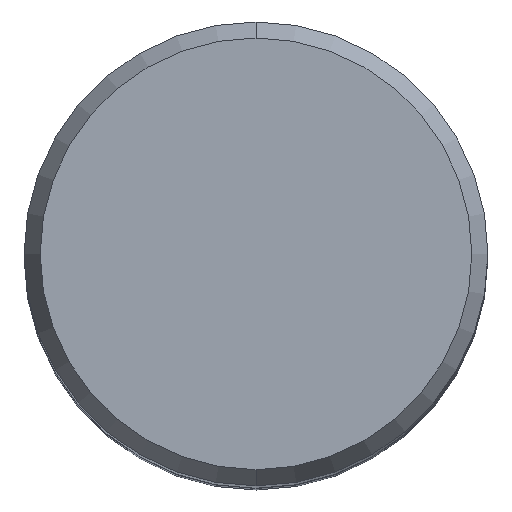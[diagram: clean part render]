
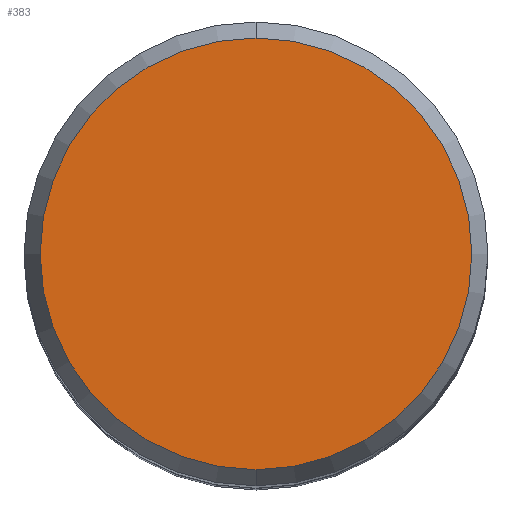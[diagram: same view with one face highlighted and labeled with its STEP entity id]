
A CAD part, top view. The second image highlights one B-rep face of the part: STEP entity #383.
In plain terms, the highlighted planar face has unit normal (0, 0, 1).
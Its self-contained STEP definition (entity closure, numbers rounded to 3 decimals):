
#383=ADVANCED_FACE('',(#808),#809,.T.);
#427=EDGE_CURVE('',#593,#473,#860,.T.);
#473=VERTEX_POINT('',#908);
#569=EDGE_CURVE('',#473,#593,#1016,.T.);
#593=VERTEX_POINT('',#1042);
#808=FACE_OUTER_BOUND('',#1378,.T.);
#809=PLANE('',#1379);
#860=CIRCLE('',#1481,9.307);
#908=CARTESIAN_POINT('',(0.,-9.307,0.0));
#1016=CIRCLE('',#1925,9.307);
#1042=CARTESIAN_POINT('',(0.0,9.307,0.0));
#1378=EDGE_LOOP('',(#2231,#2232));
#1379=AXIS2_PLACEMENT_3D('',#2233,#2234,#2235);
#1481=AXIS2_PLACEMENT_3D('',#2313,#2314,#2315);
#1925=AXIS2_PLACEMENT_3D('',#2467,#2468,#2469);
#2231=ORIENTED_EDGE('',*,*,#427,.F.);
#2232=ORIENTED_EDGE('',*,*,#569,.F.);
#2233=CARTESIAN_POINT('',(0.0,4.654,0.0));
#2234=DIRECTION('',(-0.0,0.0,1.0));
#2235=DIRECTION('',(0.0,-1.0,0.0));
#2313=CARTESIAN_POINT('',(0.0,0.0,0.0));
#2314=DIRECTION('',(0.0,0.0,-1.0));
#2315=DIRECTION('',(0.0,1.0,0.0));
#2467=CARTESIAN_POINT('',(0.0,0.0,0.0));
#2468=DIRECTION('',(0.0,0.0,-1.0));
#2469=DIRECTION('',(0.0,1.0,0.0));
